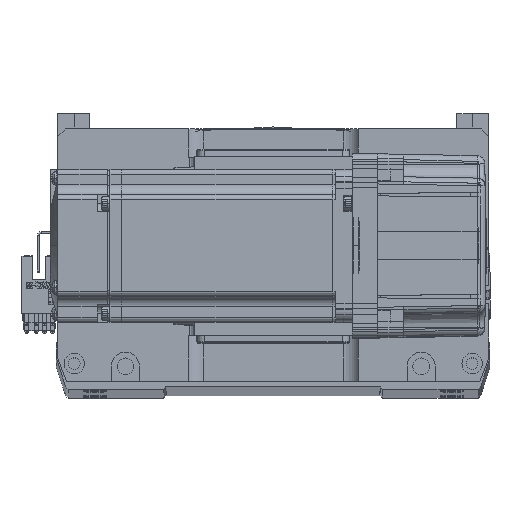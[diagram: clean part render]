
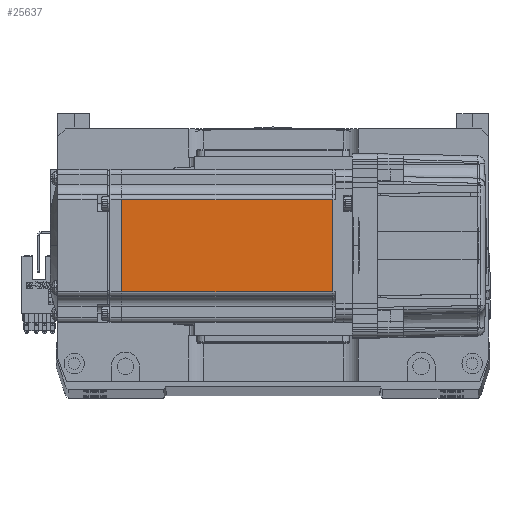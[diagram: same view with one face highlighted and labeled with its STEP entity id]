
A CAD part, top view. The second image highlights one B-rep face of the part: STEP entity #25637.
In plain terms, the highlighted planar face has unit normal (0, 0, 1).
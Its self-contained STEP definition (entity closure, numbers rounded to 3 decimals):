
#3160 = LINE ( 'NONE', #33290, #56523 ) ;
#3793 = ORIENTED_EDGE ( 'NONE', *, *, #61969, .T. ) ;
#4743 = CARTESIAN_POINT ( 'NONE',  ( -90.45, 18., 30. ) ) ;
#7331 = VERTEX_POINT ( 'NONE', #63645 ) ;
#7579 = DIRECTION ( 'NONE',  ( 0., 0., 1. ) ) ;
#8643 = LINE ( 'NONE', #49504, #20767 ) ;
#12069 = DIRECTION ( 'NONE',  ( -1., 0., 0. ) ) ;
#14838 = CARTESIAN_POINT ( 'NONE',  ( -6.5, -18., 30. ) ) ;
#17034 = ORIENTED_EDGE ( 'NONE', *, *, #56704, .F. ) ;
#18025 = DIRECTION ( 'NONE',  ( 1., 0., 0. ) ) ;
#18759 = DIRECTION ( 'NONE',  ( 0., -1., 0. ) ) ;
#20768 = CARTESIAN_POINT ( 'NONE',  ( -7.75, -18., 30. ) ) ;
#20767 = VECTOR ( 'NONE', #18759, 1000. ) ;
#21899 = CARTESIAN_POINT ( 'NONE',  ( -90.45, -18., 30. ) ) ;
#25637 = ADVANCED_FACE ( 'NONE', ( #55313 ), #47401, .T. ) ;
#31271 = VERTEX_POINT ( 'NONE', #4743 ) ;
#33290 = CARTESIAN_POINT ( 'NONE',  ( -6.5, 18., 30. ) ) ;
#34590 = LINE ( 'NONE', #14838, #49932 ) ;
#36256 = VERTEX_POINT ( 'NONE', #21899 ) ;
#37650 = CARTESIAN_POINT ( 'NONE',  ( -6.5, -25., 30. ) ) ;
#39420 = EDGE_LOOP ( 'NONE', ( #17034, #3793, #42618, #52388 ) ) ;
#40817 = EDGE_CURVE ( 'NONE', #47593, #36256, #34590, .T. ) ;
#42618 = ORIENTED_EDGE ( 'NONE', *, *, #65949, .T. ) ;
#46516 = DIRECTION ( 'NONE',  ( -1., 0., 0. ) ) ;
#47401 = PLANE ( 'NONE',  #57671 ) ;
#47593 = VERTEX_POINT ( 'NONE', #20768 ) ;
#49504 = CARTESIAN_POINT ( 'NONE',  ( -7.75, 0., 30. ) ) ;
#49932 = VECTOR ( 'NONE', #46516, 1000. ) ;
#51447 = DIRECTION ( 'NONE',  ( 0., -1., 0. ) ) ;
#51670 = CARTESIAN_POINT ( 'NONE',  ( -90.45, 0., 30. ) ) ;
#52388 = ORIENTED_EDGE ( 'NONE', *, *, #40817, .F. ) ;
#53871 = LINE ( 'NONE', #51670, #57100 ) ;
#55313 = FACE_OUTER_BOUND ( 'NONE', #39420, .T. ) ;
#56523 = VECTOR ( 'NONE', #12069, 1000. ) ;
#56704 = EDGE_CURVE ( 'NONE', #7331, #47593, #8643, .T. ) ;
#57100 = VECTOR ( 'NONE', #51447, 1000. ) ;
#57671 = AXIS2_PLACEMENT_3D ( 'NONE', #37650, #7579, #18025 ) ;
#61969 = EDGE_CURVE ( 'NONE', #7331, #31271, #3160, .T. ) ;
#63645 = CARTESIAN_POINT ( 'NONE',  ( -7.75, 18., 30. ) ) ;
#65949 = EDGE_CURVE ( 'NONE', #31271, #36256, #53871, .T. ) ;
